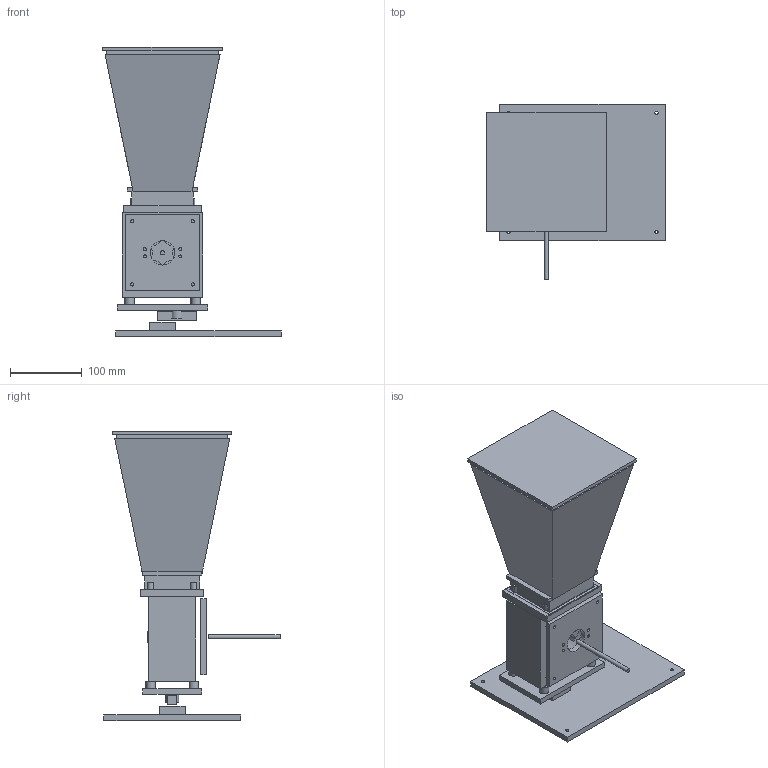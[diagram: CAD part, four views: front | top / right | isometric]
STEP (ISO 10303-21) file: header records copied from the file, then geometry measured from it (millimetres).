
FILE_DESCRIPTION(('Open CASCADE Model'),'2;1');
FILE_NAME('Open CASCADE Shape Model','2026-09-10T23:36:52',('Author'),( 'Open CASCADE'),'Open CASCADE STEP processor 7.9','Open CASCADE 7.9' ,'Unknown');
FILE_SCHEMA(('AUTOMOTIVE_DESIGN { 1 0 10303 214 1 1 1 1 }'));
Length unit declared in the file: millimetre
Products named in the file (14): TenderCells_Feeder_v3; Base; LoadCell; FloatingPlatform; MeterHousing; ServoSidePlate; BearingSidePlate; Rotor; 6mm_D_Shaft; 696Bearing; HopperAdapter; TPUGasket; Hopper; HopperLid
Assembly tree (13 placements, depth 2):
  TenderCells_Feeder_v3
    Base
    LoadCell
    FloatingPlatform
    MeterHousing
    ServoSidePlate
    BearingSidePlate
    Rotor
    6mm_D_Shaft
    696Bearing
    HopperAdapter
    TPUGasket
    Hopper
    HopperLid
Bounding box: 248 x 245 x 402.7 mm (x, y, z)
Volume: 1667517.9 mm3; surface area: 575314 mm2
Topology: 13 solids, 14 shells, 276 faces, 658 edges, 435 vertices
Faces by surface type: plane 181, cylinder 83, bspline 12
Full cylindrical faces by diameter (mm): 4.2 x7, 4.5 x16, 5.2 x2, 5.6 x12, 6 x1, 6.6 x1, 7 x1, 13 x4, 15 x1, 15.08 x1, 18 x1, 34 x1, 72 x2
Entity records: 21339 total; most frequent: CARTESIAN_POINT 7674, DIRECTION 2488, LINE 1465, VECTOR 1465, ORIENTED_EDGE 1316, PCURVE 1316, DEFINITIONAL_REPRESENTATION 1316, EDGE_CURVE 658
